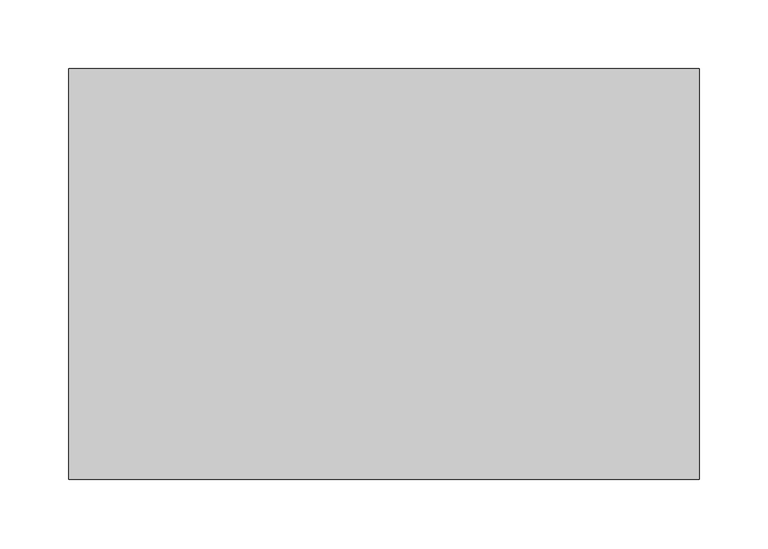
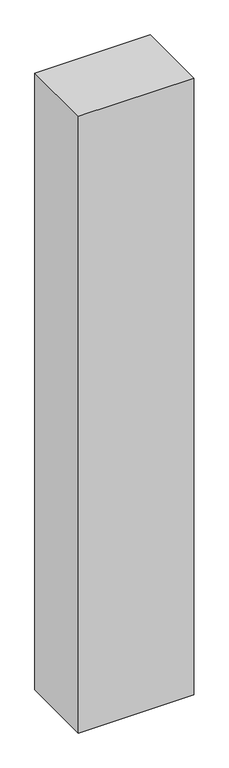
"""IFC4 building model written with IfcOpenShell, lengths in millimetres: furniture geometry, Fu_шкаф 1-с : Шкаф 1-створчатый."""

from ifc_helpers import new_model, si_unit, origin, origin_with_axes, place, context, project, spatial, polyline, outline, extrude, source, transform, mapped, element, save


def furniture_886729af(model_context):
    return source(origin(), model_context, "Body", "SweptSolid", [
        extrude(outline(polyline([(460.0, 0.0), (0.0, 0.0), (0.0, 300.0), (460.0, 300.0), (460.0, 0.0)])), origin_with_axes(), (0.0, 0.0, 1.0), 2600.0),
    ])


if __name__ == "__main__":
    model = new_model("IFC4")
    model_context = context("Model", 3, world=origin())
    ifc_project = project(units=[si_unit("LENGTHUNIT", "METRE", prefix="MILLI")], contexts=[model_context])
    site = spatial("IfcSite", under=ifc_project)
    building = spatial("IfcBuilding", under=site)
    placement = place(None, origin())
    furniture_shape = furniture_886729af(model_context)
    element("IfcFurniture", 1, ObjectType="Fu_шкаф 1-с : Шкаф 1-створчатый", at=placement, inside=building, context=model_context, shape_type="MappedRepresentation", body=[
        mapped(furniture_shape, transform((0.0, 0.0, 0.0), x_axis=(1.0, 0.0, 0.0), y_axis=(0.0, 1.0, 0.0), z_axis=(0.0, 0.0, 1.0))),
    ])
    save(model, "model.ifc")
